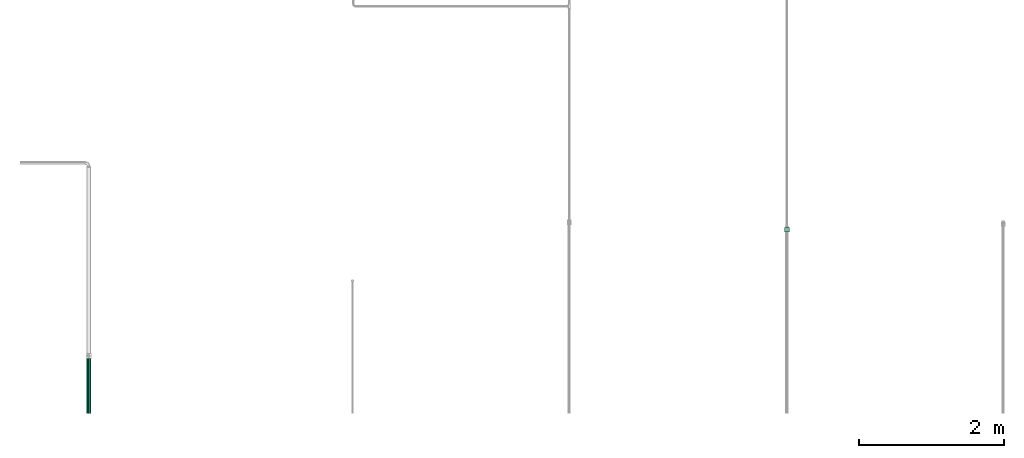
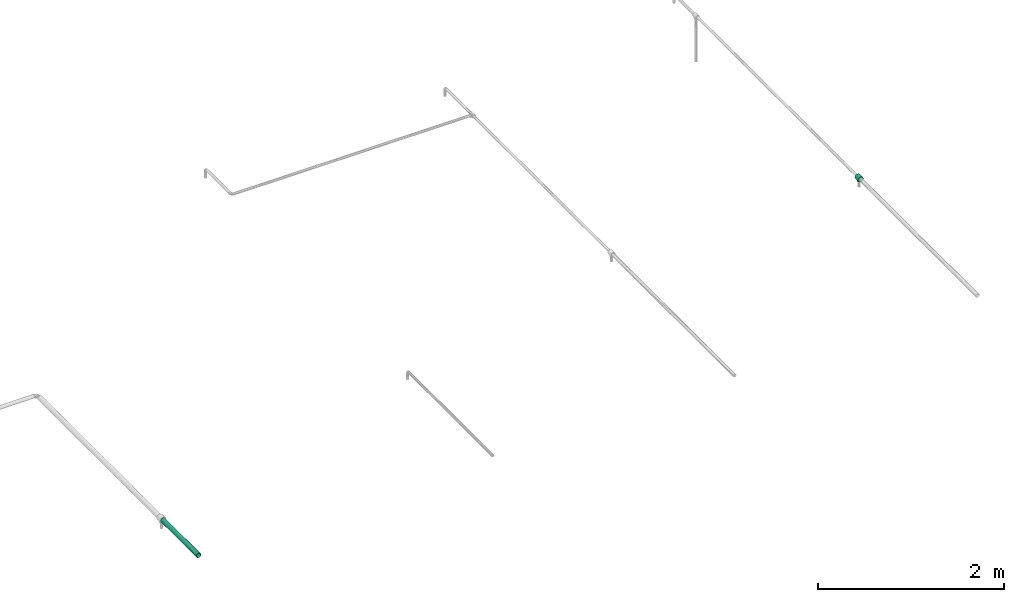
# One storey, part 15 of 17: 1 flow fitting, 1 flow segment.
"""IFC2X3 building model written with IfcOpenShell, lengths in millimetres."""

from ifc_helpers import new_model, entity, si_unit, converted_unit, derived_unit, direction, frame, origin_with_axes, place, context, subcontext, project, spatial, open_shell, faceted_brep, surface_model, source, transform, mapped, type_object, element, save


model = new_model("IFC2X3")

# Units and contexts
model_context = context("Model", 3, precision=0.01, world=frame((0.0, 4.29681676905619e-09, 0.0)), true_north=direction((4.01073788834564e-13, 1.0)))
plan_context = context("Plan", 3, precision=0.01, world=frame((0.0, 4.29681676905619e-09, 0.0)), true_north=direction((4.01073788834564e-13, 1.0)))
body_context = subcontext(model_context, "Body", "Model", "MODEL_VIEW")
ifc_project = project(units=[converted_unit("PLANEANGLEUNIT", "DEGREE", entity("IfcPositiveLengthMeasure", 0.0174532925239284), si_unit("PLANEANGLEUNIT", "RADIAN"), dimensions=[0, 0, 0, 0, 0, 0, 0]), si_unit("AREAUNIT", "SQUARE_METRE"), si_unit("LENGTHUNIT", "METRE", prefix="MILLI"), si_unit("MASSUNIT", "GRAM", prefix="KILO"), si_unit("POWERUNIT", "WATT"), si_unit("PRESSUREUNIT", "PASCAL"), si_unit("FORCEUNIT", "NEWTON", prefix="KILO"), si_unit("ELECTRICVOLTAGEUNIT", "VOLT"), si_unit("ELECTRICCURRENTUNIT", "AMPERE"), si_unit("THERMODYNAMICTEMPERATUREUNIT", "DEGREE_CELSIUS"), si_unit("TIMEUNIT", "SECOND"), si_unit("VOLUMEUNIT", "CUBIC_METRE"), derived_unit("LINEARVELOCITYUNIT", [(si_unit("LENGTHUNIT", "METRE"), 1), (si_unit("TIMEUNIT", "SECOND"), -1)]), derived_unit("VOLUMETRICFLOWRATEUNIT", [(si_unit("VOLUMEUNIT", "CUBIC_METRE"), 1), (si_unit("TIMEUNIT", "SECOND"), -1)]), derived_unit("THERMALTRANSMITTANCEUNIT", [(si_unit("POWERUNIT", "WATT"), 1), (si_unit("THERMODYNAMICTEMPERATUREUNIT", "KELVIN"), -1), (si_unit("AREAUNIT", "SQUARE_METRE"), -1)]), derived_unit("SOUNDPRESSUREUNIT", [(si_unit("PRESSUREUNIT", "PASCAL"), 1)])], contexts=[model_context, plan_context])

# Site, building, storey
site_placement = place(None, frame((0.0, -4.29681676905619e-09, 0.0), z_axis=(0.0, 0.0, 1.0), x_axis=(1.0, 0.0, 0.0)))
site = spatial("IfcSite", under=ifc_project, at=site_placement, Name="ENGM", CompositionType="ELEMENT")
building_placement = place(site_placement, frame((0.0, 4.29681676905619e-09, 0.0), z_axis=(0.0, 0.0, 1.0), x_axis=(1.0, 0.0, 0.0)))
building = spatial("IfcBuilding", under=site, at=building_placement, Name="TH", CompositionType="ELEMENT")
storey_placement = place(building_placement, frame((0.0, 0.0, 205200.0), z_axis=(0.0, 0.0, 1.0), x_axis=(1.0, 0.0, 0.0)))
storey = spatial("IfcBuildingStorey", under=building, at=storey_placement, Name="Nivå D + 1,2 m", CompositionType="ELEMENT", Elevation=205200.0)

# Flow fitting
pipe_fitting_type = type_object("IfcPipeFittingType", Name="magi_pipe_fe_tee_centric_90_NOR 2", PredefinedType="JUNCTION")
shared_shape = source(origin_with_axes(), body_context, "Body", "SurfaceModel", [
    surface_model("IfcShellBasedSurfaceModel", [(-33.8, 0.0, -24.2), (-33.8, -6.26342, -23.37541), (-33.8, 6.26342, -23.37541), (-33.8, 12.1, -20.95781), (-33.8, 17.11198, -17.11198), (-33.8, 20.95781, -12.1), (-33.8, -23.37541, -6.26342), (-33.8, 23.37541, -6.26342), (-33.8, -17.11198, -17.11198), (-33.8, -20.95781, -12.1), (-33.8, -12.1, -20.95781), (-33.8, -24.2, 0.0), (-33.8, 20.95781, 12.1), (-33.8, 23.37541, 6.26342), (-33.8, 24.2, 0.0), (-33.8, -20.95781, 12.1), (-33.8, -17.11198, 17.11198), (-33.8, -23.37541, 6.26342), (-33.8, -12.1, 20.95781), (-33.8, -6.26342, 23.37541), (-33.8, 0.0, 24.2), (-33.8, 6.26342, 23.37541), (33.8, 6.26342, -23.37541), (33.8, -6.26342, -23.37541), (33.8, 0.0, -24.2), (33.8, 17.11198, -17.11198), (33.8, 12.1, -20.95781), (33.8, -23.37541, -6.26342), (33.8, 20.95781, -12.1), (33.8, 23.37541, -6.26342), (33.8, -17.11198, -17.11198), (33.8, -12.1, -20.95781), (33.8, -20.95781, -12.1), (33.8, -24.2, 0.0), (33.8, 24.2, 0.0), (33.8, 23.37541, 6.26342), (33.8, 20.95781, 12.1), (33.8, -23.37541, 6.26342), (33.8, -17.11198, 17.11198), (33.8, 12.1, 20.95781), (33.8, 17.11198, 17.11198), (33.8, 6.26342, 23.37541), (33.8, -20.95781, 12.1), (33.8, -12.1, 20.95781), (33.8, 0.0, 24.2), (33.8, -6.26342, 23.37541), (15.81824, -23.45734, 5.94922), (16.9, -24.2, 0.0), (12.87025, -21.57947, 10.95293), (33.8, -19.0349, 14.60599), (8.52813, -19.30697, 14.59044), (3.03527, -17.5853, 16.6252), (-3.04044, -17.58619, 16.62425), (-8.52961, -19.30762, 14.58958), (-33.8, -19.0349, 14.60599), (-16.9, -24.2, 0.0), (-15.81885, -23.45775, 5.9476), (-12.87368, -21.58151, 10.9489), (-33.8, 17.11198, 17.11198), (-33.8, 12.1, 20.95781), (3.03527, -17.5853, -16.6252), (33.8, -19.0349, -14.60599), (8.52813, -19.30697, -14.59044), (-8.52961, -19.30762, -14.58958), (-33.8, -19.0349, -14.60599), (12.87025, -21.57947, -10.95293), (-3.04044, -17.58619, -16.62425), (15.81824, -23.45734, -5.94922), (-12.87368, -21.58151, -10.9489), (-15.81885, -23.45775, -5.9476), (4.37404, -36.3, -16.32415), (-16.9, -36.3, 0.0), (0.0, -36.3, -16.9), (14.63583, -36.3, -8.45), (8.45, -36.3, -14.63583), (16.32415, -36.3, -4.37404), (11.9501, -36.3, -11.9501), (-11.9501, -36.3, -11.9501), (-8.45, -36.3, -14.63583), (-4.37404, -36.3, -16.32415), (-14.63583, -36.3, -8.45), (-16.32415, -36.3, -4.37404), (8.45, -36.3, 14.63583), (16.32415, -36.3, 4.37404), (14.63583, -36.3, 8.45), (11.9501, -36.3, 11.9501), (-16.32415, -36.3, 4.37404), (-11.9501, -36.3, 11.9501), (-14.63583, -36.3, 8.45), (-8.45, -36.3, 14.63583), (0.0, -36.3, 16.9), (-4.37404, -36.3, 16.32415), (-16.35943, -23.82888, 2.9738), (16.35912, -23.82867, 2.97461), (-0.00259, -17.58575, 16.62472), (4.37404, -36.3, 16.32415), (16.9, -36.3, 0.0), (16.35912, -23.82867, -2.97461), (-0.00259, -17.58575, -16.62472), (-16.35943, -23.82888, -2.9738), (0.0, -36.3, -25.9), (6.70341, -36.3, -25.01748), (12.95, -36.3, -22.43006), (-6.70341, -36.3, -25.01748), (22.43006, -36.3, -12.95), (25.01748, -36.3, -6.70341), (18.31407, -36.3, -18.31407), (-18.31407, -36.3, -18.31407), (-12.95, -36.3, -22.43006), (-25.01748, -36.3, -6.70341), (-22.43006, -36.3, -12.95), (-25.9, -36.3, 0.0), (-18.31407, -36.3, 18.31407), (25.9, -36.3, 0.0), (25.01748, -36.3, 6.70341), (22.43006, -36.3, 12.95), (12.95, -36.3, 22.43006), (18.31407, -36.3, 18.31407), (0.0, -36.3, 25.9), (6.70341, -36.3, 25.01748), (-25.01748, -36.3, 6.70341), (-22.43006, -36.3, 12.95), (-6.70341, -36.3, 25.01748), (-12.95, -36.3, 22.43006), (-25.45874, -36.3, 3.35171), (-25.05164, -32.54701, 4.61007), (-19.65643, -28.59729, 16.86519), (-23.72377, -36.3, 9.82671), (-24.20329, -31.89403, 9.22014), (-13.06898, -24.54034, 22.36094), (-25.47582, -32.87351, 2.30504), (-21.92986, -30.24566, 13.04267), (25.47606, -32.87369, 2.30441), (25.9, -33.2, 0.0), (-4.70608, -21.29735, 25.46886), (4.71428, -21.29917, 25.46734), (0.0041, -21.29826, 25.4681), (-25.9, -33.2, 0.0), (25.05212, -32.54738, 4.60881), (25.45874, -36.3, 3.35171), (13.07099, -24.54141, 22.35977), (19.66067, -28.60021, 16.86025), (24.20425, -31.89476, 9.21762), (23.72377, -36.3, 9.82671), (21.93246, -30.24748, 13.03893), (25.45874, -36.3, -3.35171), (25.05212, -32.54738, -4.60881), (19.66067, -28.60021, -16.86025), (23.72377, -36.3, -9.82671), (24.20425, -31.89476, -9.21762), (13.07099, -24.54141, -22.35977), (25.47606, -32.87369, -2.30441), (21.93246, -30.24748, -13.03893), (-25.47582, -32.87351, -2.30504), (4.71428, -21.29917, -25.46734), (-4.70608, -21.29735, -25.46886), (0.0041, -21.29826, -25.4681), (-25.45874, -36.3, -3.35171), (-13.06898, -24.54034, -22.36094), (-19.65643, -28.59729, -16.86519), (-24.20329, -31.89403, -9.22014), (-23.72377, -36.3, -9.82671), (-21.92986, -30.24566, -13.04267), (-25.05164, -32.54701, -4.61007), (-33.8, 8.59279, -32.06874), (-33.8, 0.0, -33.2), (-33.8, -8.59279, -32.06874), (-33.8, -32.06874, -8.59279), (-33.8, 16.6, -28.75204), (-33.8, 28.75204, -16.6), (-33.8, 23.47594, -23.47594), (-33.8, -33.2, 0.0), (-33.8, 32.06874, 8.59279), (-33.8, -23.47594, -23.47594), (-33.8, -28.75204, -16.6), (-33.8, -16.6, -28.75204), (-33.8, 33.2, 0.0), (-33.8, 32.06874, -8.59279), (-33.8, -23.47594, 23.47594), (-33.8, 28.75204, 16.6), (-33.8, 16.6, 28.75204), (-33.8, 23.47594, 23.47594), (-33.8, 0.0, 33.2), (-33.8, 8.59279, 32.06874), (-33.8, -32.06874, 8.59279), (-33.8, -28.75204, 16.6), (-33.8, -16.6, 28.75204), (-33.8, -8.59279, 32.06874), (33.8, -8.59279, -32.06874), (33.8, 0.0, -33.2), (33.8, 8.59279, -32.06874), (33.8, 16.6, -28.75204), (33.8, -32.06874, -8.59279), (33.8, 28.75204, -16.6), (33.8, 23.47594, -23.47594), (33.8, -23.47594, 23.47594), (33.8, -16.6, -28.75204), (33.8, -28.75204, -16.6), (33.8, -23.47594, -23.47594), (33.8, -33.2, 0.0), (33.8, 32.06874, -8.59279), (33.8, 32.06874, 8.59279), (33.8, 33.2, 0.0), (33.8, 16.6, 28.75204), (33.8, 28.75204, 16.6), (33.8, 23.47594, 23.47594), (33.8, 0.0, 33.2), (33.8, 8.59279, 32.06874), (33.8, -28.75204, 16.6), (33.8, -32.06874, 8.59279), (33.8, -8.59279, 32.06874), (33.8, -16.6, 28.75204), (24.62818, -32.22107, 6.91322), (33.8, -32.35155, 6.44459), (-33.8, -32.35155, 6.44459), (-24.62746, -32.22052, 6.91511), (33.8, -32.63437, 4.2964), (33.8, -30.41039, 12.5964), (-33.8, -32.63437, 4.2964), (-33.8, -30.41039, 12.5964), (24.62818, -32.22107, -6.91322), (33.8, -32.35155, -6.44459), (-33.8, -32.35155, -6.44459), (-24.62746, -32.22052, -6.91511), (-33.8, -32.63437, -4.2964), (33.8, -32.63437, -4.2964), (33.8, -30.41039, -12.5964), (-33.8, -30.41039, -12.5964)], [open_shell([[[0, 1, 2]], [[3, 2, 4]], [[5, 2, 6]], [[4, 2, 5]], [[7, 5, 6]], [[8, 9, 10]], [[1, 10, 9]], [[1, 9, 2]], [[9, 6, 2]], [[6, 11, 7]], [[12, 13, 14]], [[15, 16, 17]], [[18, 19, 16]], [[20, 16, 19]], [[16, 20, 21]], [[22, 23, 24]], [[25, 22, 26]], [[27, 22, 28]], [[28, 22, 25]], [[27, 28, 29]], [[23, 30, 31]], [[30, 23, 32]], [[22, 32, 23]], [[22, 27, 32]], [[29, 33, 27]], [[29, 34, 33]], [[34, 35, 36]], [[37, 34, 36]], [[38, 36, 39]], [[39, 36, 40]], [[38, 39, 41]], [[37, 38, 42]], [[37, 36, 38]], [[43, 44, 45]], [[44, 43, 38]], [[41, 44, 38]], [[34, 37, 33]], [[33, 37, 46]], [[46, 47, 33]], [[37, 48, 46]], [[49, 38, 50]], [[50, 48, 42]], [[51, 50, 38]], [[52, 51, 18]], [[42, 48, 37]], [[53, 16, 54]], [[55, 56, 11]], [[17, 11, 56]], [[56, 57, 17]], [[53, 52, 16]], [[53, 15, 57]], [[15, 53, 54]], [[57, 15, 17]], [[16, 52, 18]], [[50, 42, 49]], [[51, 38, 43]], [[20, 45, 44]], [[19, 43, 45]], [[21, 44, 41]], [[36, 35, 13]], [[58, 39, 40]], [[12, 40, 36]], [[41, 39, 59]], [[14, 35, 34]], [[18, 43, 19]], [[19, 45, 20]], [[21, 20, 44]], [[41, 59, 21]], [[59, 39, 58]], [[12, 58, 40]], [[13, 12, 36]], [[35, 14, 13]], [[43, 18, 51]], [[5, 29, 28]], [[7, 34, 29]], [[4, 28, 25]], [[24, 23, 1]], [[2, 26, 22]], [[0, 22, 24]], [[25, 26, 3]], [[10, 23, 31]], [[14, 34, 7]], [[7, 29, 5]], [[4, 5, 28]], [[25, 3, 4]], [[3, 26, 2]], [[0, 2, 22]], [[1, 0, 24]], [[23, 10, 1]], [[31, 60, 10]], [[61, 32, 62]], [[63, 9, 64]], [[62, 60, 30]], [[32, 65, 62]], [[66, 10, 60]], [[27, 33, 67]], [[67, 65, 27]], [[47, 67, 33]], [[27, 65, 32]], [[66, 63, 8]], [[62, 30, 61]], [[64, 8, 63]], [[63, 68, 9]], [[8, 10, 66]], [[68, 69, 6]], [[69, 11, 6]], [[11, 69, 55]], [[68, 6, 9]], [[60, 31, 30]], [[70, 71, 72]], [[73, 70, 74]], [[73, 75, 70]], [[73, 74, 76]], [[71, 70, 75]], [[72, 77, 78]], [[78, 79, 72]], [[80, 71, 81]], [[77, 72, 80]], [[71, 80, 72]], [[82, 83, 84]], [[82, 84, 85]], [[86, 87, 88]], [[89, 90, 91]], [[86, 92, 71]], [[57, 88, 87]], [[86, 88, 56]], [[87, 89, 53]], [[86, 56, 92]], [[92, 55, 71]], [[56, 88, 57]], [[93, 46, 83]], [[53, 91, 52]], [[53, 57, 87]], [[90, 51, 94]], [[53, 89, 91]], [[51, 90, 95]], [[82, 50, 95]], [[85, 84, 48]], [[85, 50, 82]], [[46, 84, 83]], [[85, 48, 50]], [[50, 51, 95]], [[96, 93, 83]], [[46, 48, 84]], [[93, 96, 47]], [[90, 52, 91]], [[94, 52, 90]], [[75, 97, 96]], [[65, 73, 76]], [[75, 73, 67]], [[76, 74, 62]], [[97, 47, 96]], [[67, 73, 65]], [[62, 70, 60]], [[62, 65, 76]], [[72, 66, 98]], [[62, 74, 70]], [[99, 71, 55]], [[99, 69, 81]], [[75, 67, 97]], [[79, 66, 72]], [[69, 80, 81]], [[77, 80, 68]], [[72, 60, 70]], [[79, 63, 66]], [[63, 79, 78]], [[78, 77, 63]], [[63, 77, 68]], [[68, 80, 69]], [[71, 99, 81]], [[98, 60, 72]], [[100, 101, 102]], [[103, 100, 102]], [[104, 105, 102]], [[104, 102, 106]], [[103, 102, 105]], [[103, 107, 108]], [[107, 103, 109]], [[107, 109, 110]], [[109, 103, 111]], [[103, 105, 111]], [[105, 112, 111]], [[113, 114, 115]], [[116, 105, 115]], [[105, 116, 112]], [[116, 115, 117]], [[118, 116, 119]], [[120, 112, 121]], [[111, 112, 120]], [[112, 122, 123]], [[122, 112, 118]], [[116, 118, 112]], [[115, 105, 113]], [[124, 120, 125]], [[126, 121, 112]], [[127, 121, 128]], [[112, 123, 129]], [[128, 120, 127]], [[130, 111, 124]], [[128, 121, 131]], [[132, 113, 133]], [[129, 122, 134]], [[129, 126, 112]], [[118, 135, 136]], [[121, 126, 131]], [[129, 123, 122]], [[111, 130, 137]], [[138, 114, 139]], [[135, 118, 119]], [[116, 140, 119]], [[141, 117, 115]], [[116, 117, 140]], [[142, 143, 114]], [[119, 140, 135]], [[117, 141, 140]], [[115, 142, 144]], [[120, 128, 125]], [[114, 138, 142]], [[144, 141, 115]], [[118, 134, 122]], [[142, 115, 143]], [[139, 132, 138]], [[124, 125, 130]], [[136, 134, 118]], [[113, 132, 139]], [[145, 105, 146]], [[147, 104, 106]], [[148, 104, 149]], [[106, 102, 150]], [[149, 105, 148]], [[151, 113, 145]], [[149, 104, 152]], [[153, 111, 137]], [[150, 101, 154]], [[150, 147, 106]], [[100, 155, 156]], [[105, 149, 146]], [[150, 102, 101]], [[145, 146, 151]], [[111, 153, 157]], [[155, 100, 103]], [[108, 158, 103]], [[107, 110, 159]], [[113, 151, 133]], [[104, 147, 152]], [[107, 158, 108]], [[160, 161, 109]], [[103, 158, 155]], [[107, 159, 158]], [[110, 160, 162]], [[163, 109, 157]], [[109, 163, 160]], [[162, 159, 110]], [[160, 110, 161]], [[157, 153, 163]], [[156, 154, 100]], [[100, 154, 101]], [[164, 165, 166]], [[164, 167, 168]], [[169, 168, 167]], [[170, 168, 169]], [[169, 171, 172]], [[173, 174, 175]], [[166, 175, 174]], [[174, 167, 166]], [[167, 164, 166]], [[167, 171, 169]], [[176, 177, 169]], [[172, 171, 178]], [[179, 172, 180]], [[178, 180, 172]], [[181, 179, 180]], [[180, 182, 183]], [[184, 185, 171]], [[171, 185, 178]], [[186, 187, 178]], [[182, 178, 187]], [[178, 182, 180]], [[172, 176, 169]], [[188, 189, 190]], [[191, 192, 190]], [[192, 191, 193]], [[193, 191, 194]], [[193, 195, 192]], [[196, 197, 198]], [[197, 196, 188]], [[188, 192, 197]], [[188, 190, 192]], [[192, 195, 199]], [[193, 200, 195]], [[201, 195, 202]], [[203, 201, 204]], [[195, 201, 203]], [[203, 204, 205]], [[206, 203, 207]], [[199, 208, 209]], [[195, 208, 199]], [[195, 210, 211]], [[210, 195, 206]], [[203, 206, 195]], [[195, 200, 202]], [[212, 213, 209]], [[214, 125, 215]], [[199, 216, 133]], [[141, 144, 208]], [[208, 195, 140]], [[142, 209, 217]], [[140, 141, 208]], [[135, 140, 195]], [[209, 142, 212]], [[195, 211, 135]], [[144, 142, 217]], [[137, 218, 171]], [[215, 128, 184]], [[219, 128, 131]], [[208, 144, 217]], [[137, 125, 218]], [[128, 219, 184]], [[133, 216, 138]], [[129, 134, 178]], [[138, 216, 213]], [[126, 129, 185]], [[219, 131, 185]], [[185, 129, 178]], [[138, 213, 212]], [[134, 186, 178]], [[125, 214, 218]], [[185, 131, 126]], [[215, 184, 214]], [[135, 211, 134]], [[182, 210, 206]], [[187, 211, 210]], [[183, 206, 207]], [[204, 201, 172]], [[181, 203, 205]], [[179, 205, 204]], [[207, 203, 180]], [[176, 201, 202]], [[186, 211, 187]], [[187, 210, 182]], [[183, 182, 206]], [[207, 180, 183]], [[180, 203, 181]], [[179, 181, 205]], [[172, 179, 204]], [[201, 176, 172]], [[211, 186, 134]], [[169, 200, 193]], [[177, 202, 200]], [[170, 193, 194]], [[189, 188, 166]], [[164, 191, 190]], [[165, 190, 189]], [[194, 191, 168]], [[175, 188, 196]], [[220, 192, 221]], [[176, 202, 177]], [[177, 200, 169]], [[170, 169, 193]], [[163, 222, 223]], [[194, 168, 170]], [[168, 191, 164]], [[165, 164, 190]], [[166, 165, 189]], [[188, 175, 166]], [[196, 155, 175]], [[150, 197, 147]], [[197, 150, 198]], [[197, 152, 147]], [[150, 154, 198]], [[163, 224, 222]], [[198, 154, 196]], [[133, 146, 225]], [[192, 149, 226]], [[149, 192, 220]], [[167, 160, 223]], [[152, 197, 226]], [[226, 149, 152]], [[221, 146, 220]], [[155, 158, 173]], [[160, 167, 227]], [[174, 158, 159]], [[158, 174, 173]], [[133, 225, 199]], [[155, 173, 175]], [[171, 224, 137]], [[146, 221, 225]], [[174, 159, 162]], [[222, 167, 223]], [[137, 224, 163]], [[227, 162, 160]], [[174, 162, 227]], [[154, 155, 196]], [[11, 14, 7]], [[58, 12, 14]], [[11, 17, 59]], [[59, 58, 11]], [[21, 59, 17]], [[16, 21, 17]], [[58, 14, 11]], [[75, 83, 71]], [[86, 71, 83]], [[87, 83, 82]], [[87, 82, 95]], [[86, 83, 87]], [[89, 87, 95]], [[90, 89, 95]], [[83, 75, 96]]])]),
])
flow_fitting_placement = place(storey_placement, frame((905442.5, 478578.87394, 4442.5), z_axis=(-1.0, 0.0, 0.0), x_axis=(0.0, -1.0, 0.0)))
element("IfcFlowFitting", 1, at=flow_fitting_placement, inside=storey, type_object=pipe_fitting_type, Name="magi_pipe_fe_tee_centric_90_NOR 2", context=body_context, shape_type="MappedRepresentation", body=[
    mapped(shared_shape, transform((0.0, 0.0, 0.0), scale=1.0)),
])

# Flow segment
pipe_segment_type = type_object("IfcPipeSegmentType", Name="Stålrør normaltykke", PredefinedType="RIGIDSEGMENT")
flow_segment_placement = place(storey_placement, frame((895782.28739, 474292.39298, 4417.71893), z_axis=(0.0, 0.0, 1.0), x_axis=(0.0, 1.0, 0.0)))
element("IfcFlowSegment", 2, at=flow_segment_placement, inside=storey, type_object=pipe_segment_type, Name="Stålrør normaltykke", context=body_context, shape_type="Brep", body=[
    faceted_brep([(1742.28394088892, 27.673097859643, -4.87951379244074), (1742.28394088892, 28.1, 0.0), (2507.3, 28.1, 0.0), (2507.3, 27.673097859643, -4.87951379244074), (1742.28394088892, 26.405362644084, -9.61076602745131), (2507.3, 26.405362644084, -9.61076602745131), (1742.28394088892, 24.3353138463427, -14.05), (2507.3, 24.3353138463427, -14.05), (1742.28394088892, 21.5258488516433, -18.0623318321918), (2507.3, 21.5258488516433, -18.0623318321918), (1742.28394088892, 18.0623318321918, -21.5258488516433), (2507.3, 18.0623318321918, -21.5258488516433), (1742.28394088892, 14.05, -24.3353138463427), (2507.3, 14.05, -24.3353138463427), (1742.28394088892, 9.61076602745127, -26.405362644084), (2507.3, 9.61076602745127, -26.405362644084), (1742.28394088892, 4.87951379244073, -27.6730978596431), (2507.3, 4.87951379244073, -27.6730978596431), (1742.28394088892, -5.16188625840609e-15, -28.1), (2507.3, -5.16188625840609e-15, -28.1), (1742.28394088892, -4.87951379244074, -27.673097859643), (2507.3, -4.87951379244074, -27.673097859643), (1742.28394088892, -9.61076602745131, -26.405362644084), (2507.3, -9.61076602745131, -26.405362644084), (1742.28394088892, -14.05, -24.3353138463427), (2507.3, -14.05, -24.3353138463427), (1742.28394088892, -18.0623318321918, -21.5258488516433), (2507.3, -18.0623318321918, -21.5258488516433), (1742.28394088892, -21.5258488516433, -18.0623318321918), (2507.3, -21.5258488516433, -18.0623318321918), (1742.28394088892, -24.3353138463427, -14.05), (2507.3, -24.3353138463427, -14.05), (1742.28394088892, -26.405362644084, -9.61076602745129), (2507.3, -26.405362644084, -9.61076602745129), (1742.28394088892, -27.6730978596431, -4.87951379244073), (2507.3, -27.6730978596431, -4.87951379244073), (1742.28394088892, -28.1, 3.44125750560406e-15), (2507.3, -28.1, 3.44125750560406e-15), (1742.28394088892, -27.673097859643, 4.87951379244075), (2507.3, -27.673097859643, 4.87951379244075), (1742.28394088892, -26.405362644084, 9.6107660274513), (2507.3, -26.405362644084, 9.6107660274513), (1742.28394088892, -24.3353138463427, 14.05), (2507.3, -24.3353138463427, 14.05), (1742.28394088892, -21.5258488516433, 18.0623318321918), (2507.3, -21.5258488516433, 18.0623318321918), (1742.28394088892, -18.0623318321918, 21.5258488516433), (2507.3, -18.0623318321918, 21.5258488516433), (1742.28394088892, -14.05, 24.3353138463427), (2507.3, -14.05, 24.3353138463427), (1742.28394088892, -9.61076602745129, 26.405362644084), (2507.3, -9.61076602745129, 26.405362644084), (1742.28394088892, -4.87951379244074, 27.673097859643), (2507.3, -4.87951379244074, 27.673097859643), (1742.28394088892, 1.72062875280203e-15, 28.1), (2507.3, 1.72062875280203e-15, 28.1), (1742.28394088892, 4.87951379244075, 27.673097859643), (2507.3, 4.87951379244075, 27.673097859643), (1742.28394088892, 9.61076602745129, 26.405362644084), (2507.3, 9.61076602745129, 26.405362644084), (1742.28394088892, 14.05, 24.3353138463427), (2507.3, 14.05, 24.3353138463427), (1742.28394088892, 18.0623318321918, 21.5258488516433), (2507.3, 18.0623318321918, 21.5258488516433), (1742.28394088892, 21.5258488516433, 18.0623318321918), (2507.3, 21.5258488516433, 18.0623318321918), (1742.28394088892, 24.3353138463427, 14.05), (2507.3, 24.3353138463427, 14.05), (1742.28394088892, 26.405362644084, 9.61076602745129), (2507.3, 26.405362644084, 9.61076602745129), (1742.28394088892, 27.673097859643, 4.87951379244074), (2507.3, 27.673097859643, 4.87951379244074), (1742.28394088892, 30.1, 0.0), (1742.28394088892, 29.6427133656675, -5.2268101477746), (2507.3, 29.6427133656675, -5.2268101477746), (2507.3, 30.1, 0.0), (1742.28394088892, 29.6427133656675, 5.2268101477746), (2507.3, 29.6427133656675, 5.2268101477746), (1742.28394088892, 28.2847478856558, 10.2948063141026), (2507.3, 28.2847478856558, 10.2948063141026), (1742.28394088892, 26.0673646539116, 15.05), (2507.3, 26.0673646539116, 15.05), (1742.28394088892, 23.0579377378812, 19.3479070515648), (2507.3, 23.0579377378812, 19.3479070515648), (1742.28394088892, 19.3479070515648, 23.0579377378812), (2507.3, 19.3479070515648, 23.0579377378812), (1742.28394088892, 15.05, 26.0673646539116), (2507.3, 15.05, 26.0673646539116), (1742.28394088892, 10.2948063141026, 28.2847478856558), (2507.3, 10.2948063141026, 28.2847478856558), (1742.28394088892, 5.22681014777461, 29.6427133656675), (2507.3, 5.22681014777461, 29.6427133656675), (1742.28394088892, 1.84309343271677e-15, 30.1), (2507.3, 1.84309343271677e-15, 30.1), (1742.28394088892, -5.2268101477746, 29.6427133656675), (2507.3, -5.2268101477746, 29.6427133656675), (1742.28394088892, -10.2948063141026, 28.2847478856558), (2507.3, -10.2948063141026, 28.2847478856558), (1742.28394088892, -15.05, 26.0673646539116), (2507.3, -15.05, 26.0673646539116), (1742.28394088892, -19.3479070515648, 23.0579377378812), (2507.3, -19.3479070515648, 23.0579377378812), (1742.28394088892, -23.0579377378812, 19.3479070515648), (2507.3, -23.0579377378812, 19.3479070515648), (1742.28394088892, -26.0673646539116, 15.05), (2507.3, -26.0673646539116, 15.05), (1742.28394088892, -28.2847478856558, 10.2948063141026), (2507.3, -28.2847478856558, 10.2948063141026), (1742.28394088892, -29.6427133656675, 5.22681014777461), (2507.3, -29.6427133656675, 5.22681014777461), (1742.28394088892, -30.1, 3.68618686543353e-15), (2507.3, -30.1, 3.68618686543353e-15), (1742.28394088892, -29.6427133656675, -5.22681014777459), (2507.3, -29.6427133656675, -5.22681014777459), (1742.28394088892, -28.2847478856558, -10.2948063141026), (2507.3, -28.2847478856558, -10.2948063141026), (1742.28394088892, -26.0673646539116, -15.05), (2507.3, -26.0673646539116, -15.05), (1742.28394088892, -23.0579377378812, -19.3479070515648), (2507.3, -23.0579377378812, -19.3479070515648), (1742.28394088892, -19.3479070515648, -23.0579377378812), (2507.3, -19.3479070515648, -23.0579377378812), (1742.28394088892, -15.05, -26.0673646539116), (2507.3, -15.05, -26.0673646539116), (1742.28394088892, -10.2948063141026, -28.2847478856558), (2507.3, -10.2948063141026, -28.2847478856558), (1742.28394088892, -5.2268101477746, -29.6427133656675), (2507.3, -5.2268101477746, -29.6427133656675), (1742.28394088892, -5.5292802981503e-15, -30.1), (2507.3, -5.5292802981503e-15, -30.1), (1742.28394088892, 5.22681014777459, -29.6427133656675), (2507.3, 5.22681014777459, -29.6427133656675), (1742.28394088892, 10.2948063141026, -28.2847478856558), (2507.3, 10.2948063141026, -28.2847478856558), (1742.28394088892, 15.05, -26.0673646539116), (2507.3, 15.05, -26.0673646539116), (1742.28394088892, 19.3479070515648, -23.0579377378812), (2507.3, 19.3479070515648, -23.0579377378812), (1742.28394088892, 23.0579377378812, -19.3479070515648), (2507.3, 23.0579377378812, -19.3479070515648), (1742.28394088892, 26.0673646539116, -15.05), (2507.3, 26.0673646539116, -15.05), (1742.28394088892, 28.2847478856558, -10.2948063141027), (2507.3, 28.2847478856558, -10.2948063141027)], [[[0, 1, 2, 3]], [[4, 0, 3, 5]], [[6, 4, 5, 7]], [[8, 6, 7, 9]], [[10, 8, 9, 11]], [[12, 10, 11, 13]], [[14, 12, 13, 15]], [[16, 14, 15, 17]], [[18, 16, 17, 19]], [[20, 18, 19, 21]], [[22, 20, 21, 23]], [[24, 22, 23, 25]], [[26, 24, 25, 27]], [[28, 26, 27, 29]], [[30, 28, 29, 31]], [[32, 30, 31, 33]], [[34, 32, 33, 35]], [[36, 34, 35, 37]], [[38, 36, 37, 39]], [[40, 38, 39, 41]], [[42, 40, 41, 43]], [[44, 42, 43, 45]], [[46, 44, 45, 47]], [[48, 46, 47, 49]], [[50, 48, 49, 51]], [[52, 50, 51, 53]], [[54, 52, 53, 55]], [[56, 54, 55, 57]], [[58, 56, 57, 59]], [[60, 58, 59, 61]], [[62, 60, 61, 63]], [[64, 62, 63, 65]], [[66, 64, 65, 67]], [[68, 66, 67, 69]], [[70, 68, 69, 71]], [[1, 70, 71, 2]], [[72, 73, 74, 75]], [[76, 72, 75, 77]], [[78, 76, 77, 79]], [[80, 78, 79, 81]], [[82, 80, 81, 83]], [[84, 82, 83, 85]], [[86, 84, 85, 87]], [[88, 86, 87, 89]], [[90, 88, 89, 91]], [[92, 90, 91, 93]], [[94, 92, 93, 95]], [[96, 94, 95, 97]], [[98, 96, 97, 99]], [[100, 98, 99, 101]], [[102, 100, 101, 103]], [[104, 102, 103, 105]], [[106, 104, 105, 107]], [[108, 106, 107, 109]], [[110, 108, 109, 111]], [[112, 110, 111, 113]], [[114, 112, 113, 115]], [[116, 114, 115, 117]], [[118, 116, 117, 119]], [[120, 118, 119, 121]], [[122, 120, 121, 123]], [[124, 122, 123, 125]], [[126, 124, 125, 127]], [[128, 126, 127, 129]], [[130, 128, 129, 131]], [[132, 130, 131, 133]], [[134, 132, 133, 135]], [[136, 134, 135, 137]], [[138, 136, 137, 139]], [[140, 138, 139, 141]], [[142, 140, 141, 143]], [[73, 142, 143, 74]], [[75, 74, 143, 141, 139, 137, 135, 133, 131, 129, 127, 125, 123, 121, 119, 117, 115, 113, 111, 109, 107, 105, 103, 101, 99, 97, 95, 93, 91, 89, 87, 85, 83, 81, 79, 77], [2, 71, 69, 67, 65, 63, 61, 59, 57, 55, 53, 51, 49, 47, 45, 43, 41, 39, 37, 35, 33, 31, 29, 27, 25, 23, 21, 19, 17, 15, 13, 11, 9, 7, 5, 3]], [[76, 78, 80, 82, 84, 86, 88, 90, 92, 94, 96, 98, 100, 102, 104, 106, 108, 110, 112, 114, 116, 118, 120, 122, 124, 126, 128, 130, 132, 134, 136, 138, 140, 142, 73, 72], [4, 6, 8, 10, 12, 14, 16, 18, 20, 22, 24, 26, 28, 30, 32, 34, 36, 38, 40, 42, 44, 46, 48, 50, 52, 54, 56, 58, 60, 62, 64, 66, 68, 70, 1, 0]]], orient=[[False], [False], [False], [False], [False], [False], [False], [False], [False], [False], [False], [False], [False], [False], [False], [False], [False], [False], [False], [False], [False], [False], [False], [False], [False], [False], [False], [False], [False], [False], [False], [False], [False], [False], [False], [False], [False], [False], [False], [False], [False], [False], [False], [False], [False], [False], [False], [False], [False], [False], [False], [False], [False], [False], [False], [False], [False], [False], [False], [False], [False], [False], [False], [False], [False], [False], [False], [False], [False], [False], [False], [False], [False, False], [False, False]]),
])

save(model, "model.ifc")
